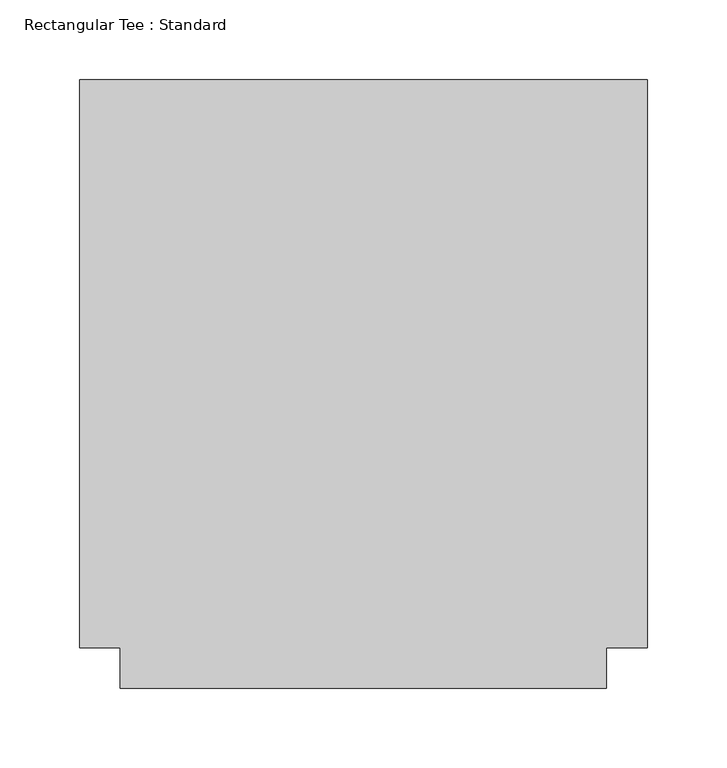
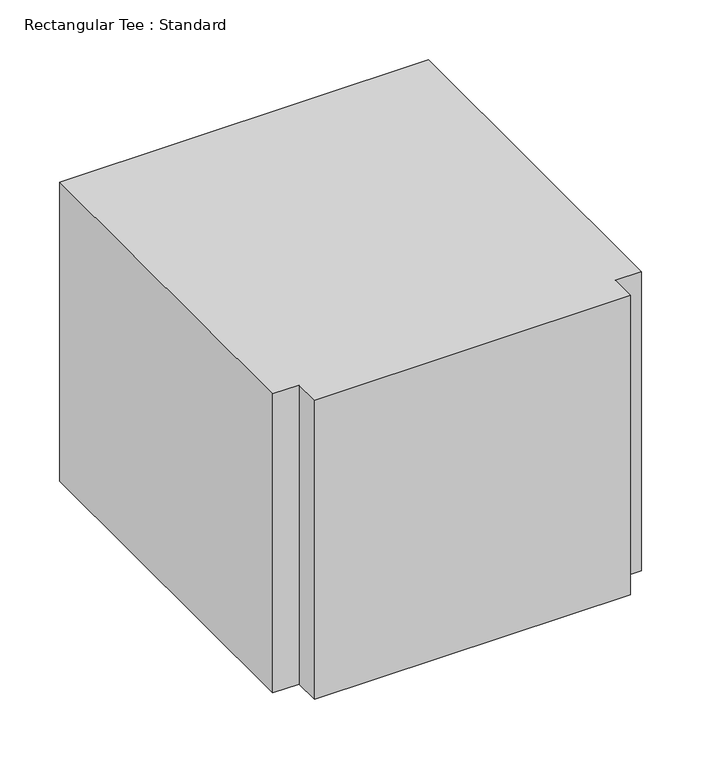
"""IFC4 building model written with IfcOpenShell, lengths in millimetres: duct fitting geometry, Rectangular Tee : Standard."""

from ifc_helpers import new_model, si_unit, frame, origin, place, context, project, spatial, polyline, outline, extrude, source, transform, mapped, element, save


def rectangular_tee_standard_b02a46a0(model_context):
    return source(origin(), model_context, "Body", "SweptSolid", [
        extrude(outline(polyline([(-177.8, -177.8), (-177.8, 177.8), (177.8, 177.8), (177.8, -177.8), (152.4, -177.8), (152.4, -203.2), (-152.4, -203.2), (-152.4, -177.8), (-177.8, -177.8)])), frame((0.0, 0.0, -152.4), z_axis=(0.0, 0.0, 1.0), x_axis=(1.0, 0.0, 0.0)), (0.0, 0.0, 1.0), 304.8),
    ])


if __name__ == "__main__":
    model = new_model("IFC4")
    model_context = context("Model", 3, world=origin())
    ifc_project = project(units=[si_unit("LENGTHUNIT", "METRE", prefix="MILLI")], contexts=[model_context])
    site = spatial("IfcSite", under=ifc_project)
    building = spatial("IfcBuilding", under=site)
    placement = place(None, origin())
    rectangular_tee_standard_shape = rectangular_tee_standard_b02a46a0(model_context)
    element("IfcDuctFitting", 1, ObjectType="Rectangular Tee : Standard", at=placement, inside=building, context=model_context, shape_type="MappedRepresentation", body=[
        mapped(rectangular_tee_standard_shape, transform((0.0, 0.0, 0.0), x_axis=(1.0, 0.0, 0.0), y_axis=(0.0, 1.0, 0.0), z_axis=(0.0, 0.0, 1.0))),
    ])
    save(model, "model.ifc")
